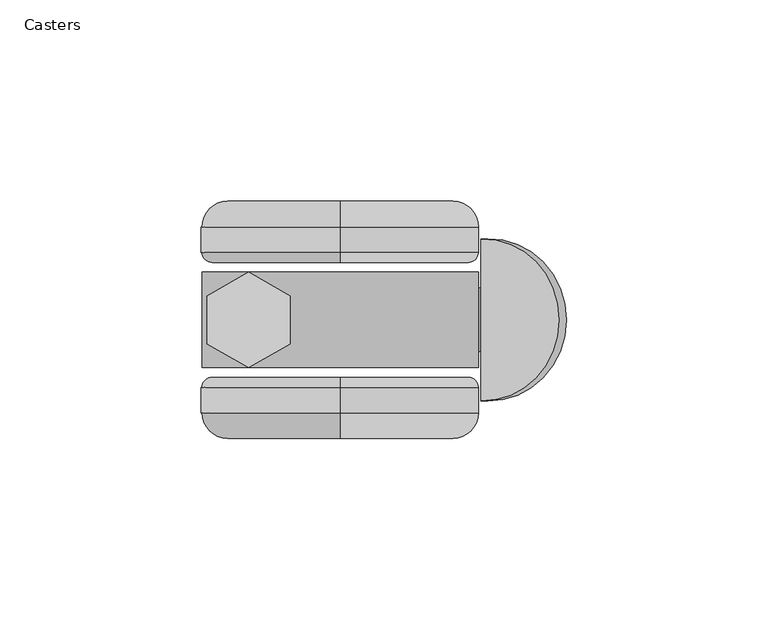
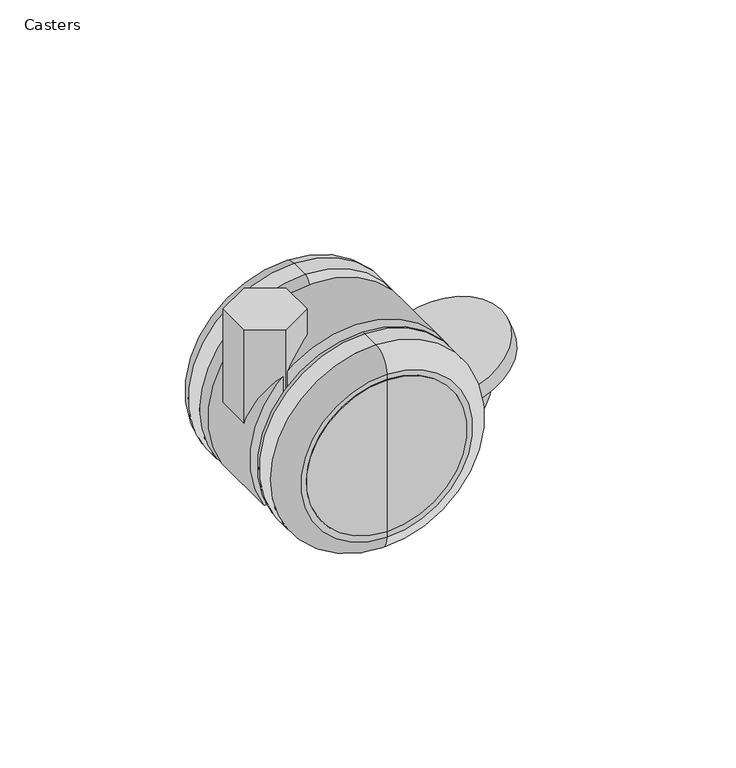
"""IFC4 building model written with IfcOpenShell, lengths in millimetres: furniture geometry, SmithSystem_AM_Table_Education_Elemental_Activity_Caster : Casters."""

from ifc_helpers import new_model, si_unit, point, frame, frame_2d, origin, place, context, project, spatial, polyline, circle_curve, ellipse_curve, trimmed, segment, composite_curve, outline, extrude, source, transform, mapped, element, save
from ifc_brep_helpers import plane_surface, cylinder_surface, revolved_surface, advanced_brep


def casters_b884fe79(model_context):
    return source(origin(), model_context, "Body", "SolidModel", [
        advanced_brep(
        [(22.7469158, 29.4512671, 60.6180432), (22.7469158, 29.4512671, 34.4942858), (22.7469158, 29.4512671, 8.3705283), (22.7469158, 14.2762892, 34.4942858), (22.7469158, 14.2762892, 60.6180432), (22.7469158, 14.2762892, 8.3705283)],
        [
            (0, 1),
            (1, 2),
            (2, 0, circle_curve(frame((22.7469158, 29.4512671, 34.4942858), z_axis=(0.0, 1.0, 0.0), x_axis=(0.0, 0.0, -1.0)), 26.1237575)),
            (0, 2, circle_curve(frame((22.7469158, 29.4512671, 34.4942858), z_axis=(0.0, 1.0, 0.0), x_axis=(0.0, 0.0, -1.0)), 26.1237575)),
            (3, 4),
            (4, 5, circle_curve(frame((22.7469158, 14.2762892, 34.4942858), z_axis=(0.0, -1.0, 0.0), x_axis=(0.0, 0.0, -1.0)), 26.1237575)),
            (5, 3),
            (5, 4, circle_curve(frame((22.7469158, 14.2762892, 34.4942858), z_axis=(0.0, -1.0, 0.0), x_axis=(0.0, 0.0, -1.0)), 26.1237575)),
            (4, 0),
            (2, 5),
        ],
        [
            plane_surface(frame((22.7469158, 29.4512671, 34.4942858), z_axis=(0.0, 1.0, 0.0), x_axis=(0.0, 0.0, -1.0))),
            plane_surface(frame((22.7469158, 14.2762892, 34.4942858), z_axis=(0.0, -1.0, 0.0), x_axis=(0.0, 0.0, -1.0))),
            cylinder_surface(frame((22.7469158, 29.4512671, 34.4942858), z_axis=(0.0, -1.0, 0.0), x_axis=(0.0, 0.0, -1.0)), 26.1237575),
        ],
        [
            (0, [[1, 2, 3]]),
            (0, [[-2, -1, 4]]),
            (1, [[5, 6, 7]]),
            (1, [[-7, 8, -5]]),
            (2, [[9, -3, 10, -6]]),
            (2, [[-10, -4, -9, -8]]),
        ],
    ),
        advanced_brep(
        [(22.7469158, -14.2762892, 60.6180432), (22.7469158, -14.2762892, 34.4942858), (22.7469158, -14.2762892, 8.3705283), (22.7469158, -29.4512671, 34.4942858), (22.7469158, -29.4512671, 60.6180432), (22.7469158, -29.4512671, 8.3705283)],
        [
            (0, 1),
            (1, 2),
            (2, 0, circle_curve(frame((22.7469158, -14.2762892, 34.4942858), z_axis=(0.0, 1.0, 0.0), x_axis=(0.0, 0.0, -1.0)), 26.1237575)),
            (0, 2, circle_curve(frame((22.7469158, -14.2762892, 34.4942858), z_axis=(0.0, 1.0, 0.0), x_axis=(0.0, 0.0, -1.0)), 26.1237575)),
            (3, 4),
            (4, 5, circle_curve(frame((22.7469158, -29.4512671, 34.4942858), z_axis=(0.0, -1.0, 0.0), x_axis=(0.0, 0.0, -1.0)), 26.1237575)),
            (5, 3),
            (5, 4, circle_curve(frame((22.7469158, -29.4512671, 34.4942858), z_axis=(0.0, -1.0, 0.0), x_axis=(0.0, 0.0, -1.0)), 26.1237575)),
            (4, 0),
            (2, 5),
        ],
        [
            plane_surface(frame((22.7469158, -14.2762892, 34.4942858), z_axis=(0.0, 1.0, 0.0), x_axis=(0.0, 0.0, -1.0))),
            plane_surface(frame((22.7469158, -29.4512671, 34.4942858), z_axis=(0.0, -1.0, 0.0), x_axis=(0.0, 0.0, -1.0))),
            cylinder_surface(frame((22.7469158, 29.4512671, 34.4942858), z_axis=(0.0, -1.0, 0.0), x_axis=(0.0, 0.0, -1.0)), 26.1237575),
        ],
        [
            (0, [[1, 2, 3]]),
            (0, [[-2, -1, 4]]),
            (1, [[5, 6, 7]]),
            (1, [[-7, 8, -5]]),
            (2, [[9, -3, 10, -6]]),
            (2, [[-10, -4, -9, -8]]),
        ],
    ),
        extrude(outline(polyline([(10.2716684, -5.9301869), (6.74e-05, -11.8599472), (-10.2711108, -5.9293064), (-10.27056, 5.9310233), (0.0009736, 11.8608108), (10.2721586, 5.9301869), (10.2716684, -5.9301869)])), frame((0.0, 0.0, 34.5154144), z_axis=(0.0, 0.0, 1.0), x_axis=(1.0, 0.0, 0.0)), (0.0, 0.0, 1.0), 40.7243426),
        extrude(outline(composite_curve([segment(trimmed(circle_curve(frame_2d((34.5024615, 22.7479107)), 34.5095906), [point((17.258349, 52.6402581))], [point((17.258349, -7.1444366))], False, "CARTESIAN"), True, "CONTINUOUS"), segment(polyline([(17.258349, -7.1444366), (17.258349, 52.6402581)]), True, "CONTINUOUS")], self_intersect=False)), frame((0.0, -11.8599472, 0.0), z_axis=(0.0, 1.0, 0.0), x_axis=(0.0, 0.0, 1.0)), (0.0, 0.0, 1.0), 23.7207579),
        extrude(outline(composite_curve([segment(trimmed(circle_curve(frame_2d((0.0, 20.1000196)), 20.1000196), [point((20.0903763, 20.7225689))], [point((-20.0903762, 20.7225689))], False, "CARTESIAN"), True, "CONTINUOUS"), segment(polyline([(-20.0903762, 20.7225689), (20.0903763, 20.7225689)]), True, "CONTINUOUS")], self_intersect=False)), frame((78.8659414, -7.36e-05, 43.1304578), z_axis=(-0.3416096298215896, 0.0, 0.9398419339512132), x_axis=(0.0, 1.0, 0.0)), (0.0, 0.0, 1.0), 5.1309173),
        extrude(outline(composite_curve([segment(polyline([(25.5698623, 43.1421933), (25.5698623, 30.4421933)]), True, "CONTINUOUS"), segment(trimmed(circle_curve(frame_2d((33.2726957, 49.5086334)), 20.5636275), [point((25.5698623, 30.4421933))], [point((34.5482376, 70.0326624))], False, "CARTESIAN"), True, "CONTINUOUS"), segment(trimmed(circle_curve(frame_2d((34.7161098, 72.7337994)), 2.7063485), [point((34.5482376, 70.0326624))], [point((37.3518014, 72.1194283))], True, "CARTESIAN"), True, "CONTINUOUS"), segment(trimmed(circle_curve(frame_2d((42.0756307, 71.018319)), 4.8504644), [point((37.3518014, 72.1194283))], [point((42.0445064, 75.8686836))], False, "CARTESIAN"), True, "CONTINUOUS"), segment(polyline([(42.0445064, 75.8686836), (36.0718444, 59.4589294)]), True, "CONTINUOUS"), segment(trimmed(circle_curve(frame_2d((33.1410013, 49.8072387)), 10.0868714), [point((36.0718444, 59.4589294))], [point((25.5698623, 43.1421933))], True, "CARTESIAN"), True, "CONTINUOUS")], self_intersect=False)), frame((0.0, -7.8962269, 0.0), z_axis=(0.0, 1.0, 0.0), x_axis=(0.0, 0.0, 1.0)), (0.0, 0.0, 1.0), 15.7887393),
        advanced_brep(
        [(22.7469158, 29.4512671, 62.6385715), (22.7469158, 29.4512671, 60.6180432), (22.7469158, 29.4512671, 8.3705283), (22.7469158, 29.4512671, 6.35), (22.7469158, 23.1012671, 68.9885715), (22.7469158, 23.1012671, 0.0), (22.7469158, 16.7875927, 68.9885715), (22.7469158, 16.7875927, 0.0), (22.7469158, 14.2762892, 66.4772681), (22.7469158, 14.2762892, 2.5113035), (22.7469158, 14.2762892, 60.6180432), (22.7469158, 14.2762892, 8.3705283)],
        [
            (0, 1),
            (1, 2, circle_curve(frame((22.7469158, 29.4512671, 34.4942858), z_axis=(0.0, -1.0, 0.0), x_axis=(0.0, 0.0, -1.0)), 26.1237575)),
            (2, 3),
            (3, 0, circle_curve(frame((22.7469158, 29.4512671, 34.4942858), z_axis=(0.0, 1.0, 0.0), x_axis=(0.0, 0.0, -1.0)), 28.1442858)),
            (2, 1, circle_curve(frame((22.7469158, 29.4512671, 34.4942858), z_axis=(0.0, -1.0, 0.0), x_axis=(0.0, 0.0, -1.0)), 26.1237575)),
            (0, 3, circle_curve(frame((22.7469158, 29.4512671, 34.4942858), z_axis=(0.0, 1.0, 0.0), x_axis=(0.0, 0.0, -1.0)), 28.1442858)),
            (4, 0, circle_curve(frame((22.7469158, 23.1012671, 62.6385715), z_axis=(-1.0, 0.0, 0.0), x_axis=(0.0, -1.0, 0.0)), 6.35)),
            (3, 5, circle_curve(frame((22.7469158, 23.1012671, 6.35), z_axis=(-1.0, 0.0, 0.0), x_axis=(0.0, -1.0, 0.0)), 6.35)),
            (5, 4, circle_curve(frame((22.7469158, 23.1012671, 34.4942858), z_axis=(0.0, 1.0, 0.0), x_axis=(0.0, 0.0, -1.0)), 34.4942858)),
            (4, 5, circle_curve(frame((22.7469158, 23.1012671, 34.4942858), z_axis=(0.0, 1.0, 0.0), x_axis=(0.0, 0.0, -1.0)), 34.4942858)),
            (6, 4),
            (5, 7),
            (7, 6, circle_curve(frame((22.7469158, 16.7875927, 34.4942858), z_axis=(0.0, 1.0, 0.0), x_axis=(0.0, 0.0, -1.0)), 34.4942858)),
            (6, 7, circle_curve(frame((22.7469158, 16.7875927, 34.4942858), z_axis=(0.0, 1.0, 0.0), x_axis=(0.0, 0.0, -1.0)), 34.4942858)),
            (8, 6, circle_curve(frame((22.7469158, 16.7875927, 66.4772681), z_axis=(-1.0, 0.0, 0.0), x_axis=(0.0, -1.0, 0.0)), 2.5113035)),
            (7, 9, circle_curve(frame((22.7469158, 16.7875927, 2.5113035), z_axis=(-1.0, 0.0, 0.0), x_axis=(0.0, -1.0, 0.0)), 2.5113035)),
            (9, 8, circle_curve(frame((22.7469158, 14.2762892, 34.4942858), z_axis=(0.0, 1.0, 0.0), x_axis=(0.0, 0.0, -1.0)), 31.9829823)),
            (8, 9, circle_curve(frame((22.7469158, 14.2762892, 34.4942858), z_axis=(0.0, 1.0, 0.0), x_axis=(0.0, 0.0, -1.0)), 31.9829823)),
            (10, 8),
            (9, 11),
            (11, 10, circle_curve(frame((22.7469158, 14.2762892, 34.4942858), z_axis=(0.0, 1.0, 0.0), x_axis=(0.0, 0.0, -1.0)), 26.1237575)),
            (10, 11, circle_curve(frame((22.7469158, 14.2762892, 34.4942858), z_axis=(0.0, 1.0, 0.0), x_axis=(0.0, 0.0, -1.0)), 26.1237575)),
            (1, 10),
            (11, 2),
        ],
        [
            plane_surface(frame((22.7469158, 29.4512671, 34.4942858), z_axis=(0.0, 1.0, 0.0), x_axis=(0.0, 0.0, -1.0))),
            revolved_surface(trimmed(ellipse_curve(frame((22.7469158, 23.1012671, 6.35), z_axis=(-1.0, 0.0, 0.0), x_axis=(0.0, -1.0, 0.0)), 6.35, 6.35), [point((22.7469158, 29.4512671, 6.35))], [point((22.7469158, 23.1012671, 0.0))], True, "CARTESIAN"), (22.7469158, 29.4512671, 34.4942858), (0.0, -1.0, 0.0)),
            cylinder_surface(frame((22.7469158, 29.4512671, 34.4942858), z_axis=(0.0, -1.0, 0.0), x_axis=(0.0, 0.0, -1.0)), 34.4942858),
            revolved_surface(trimmed(ellipse_curve(frame((22.7469158, 16.7875927, 2.5113035), z_axis=(-1.0, 0.0, 0.0), x_axis=(0.0, -1.0, 0.0)), 2.5113035, 2.5113035), [point((22.7469158, 16.7875927, 0.0))], [point((22.7469158, 14.2762892, 2.5113035))], True, "CARTESIAN"), (22.7469158, 29.4512671, 34.4942858), (0.0, -1.0, 0.0)),
            plane_surface(frame((22.7469158, 14.2762892, 34.4942858), z_axis=(0.0, -1.0, 0.0), x_axis=(0.0, 0.0, -1.0))),
            revolved_surface(polyline([(22.7469158, 14.2762892, 8.3705283), (22.7469158, 29.4512671, 8.3705283)]), (22.7469158, 29.4512671, 34.4942858), (0.0, -1.0, 0.0)),
        ],
        [
            (0, [[1, 2, 3, 4]]),
            (0, [[-3, 5, -1, 6]]),
            (1, [[7, -4, 8, 9]]),
            (1, [[-8, -6, -7, 10]]),
            (2, [[11, -9, 12, 13]]),
            (2, [[-12, -10, -11, 14]]),
            (3, [[15, -13, 16, 17]]),
            (3, [[-16, -14, -15, 18]]),
            (4, [[19, -17, 20, 21]]),
            (4, [[-20, -18, -19, 22]]),
            (5, [[23, -21, 24, -2]]),
            (5, [[-24, -22, -23, -5]]),
        ],
    ),
        advanced_brep(
        [(22.7469158, -14.2762892, 66.4772681), (22.7469158, -14.2762892, 60.6180432), (22.7469158, -14.2762892, 8.3705283), (22.7469158, -14.2762892, 2.5113035), (22.7469158, -16.7875927, 68.9885715), (22.7469158, -16.7875927, 0.0), (22.7469158, -23.1012671, 68.9885715), (22.7469158, -23.1012671, 0.0), (22.7469158, -29.4512671, 62.6385715), (22.7469158, -29.4512671, 6.35), (22.7469158, -29.4512671, 60.6180432), (22.7469158, -29.4512671, 8.3705283)],
        [
            (0, 1),
            (1, 2, circle_curve(frame((22.7469158, -14.2762892, 34.4942858), z_axis=(0.0, -1.0, 0.0), x_axis=(0.0, 0.0, -1.0)), 26.1237575)),
            (2, 3),
            (3, 0, circle_curve(frame((22.7469158, -14.2762892, 34.4942858), z_axis=(0.0, 1.0, 0.0), x_axis=(0.0, 0.0, -1.0)), 31.9829823)),
            (2, 1, circle_curve(frame((22.7469158, -14.2762892, 34.4942858), z_axis=(0.0, -1.0, 0.0), x_axis=(0.0, 0.0, -1.0)), 26.1237575)),
            (0, 3, circle_curve(frame((22.7469158, -14.2762892, 34.4942858), z_axis=(0.0, 1.0, 0.0), x_axis=(0.0, 0.0, -1.0)), 31.9829823)),
            (4, 0, circle_curve(frame((22.7469158, -16.7875927, 66.4772681), z_axis=(-1.0, 0.0, 0.0), x_axis=(0.0, -1.0, 0.0)), 2.5113035)),
            (3, 5, circle_curve(frame((22.7469158, -16.7875927, 2.5113035), z_axis=(-1.0, 0.0, 0.0), x_axis=(0.0, -1.0, 0.0)), 2.5113035)),
            (5, 4, circle_curve(frame((22.7469158, -16.7875927, 34.4942858), z_axis=(0.0, 1.0, 0.0), x_axis=(0.0, 0.0, -1.0)), 34.4942858)),
            (4, 5, circle_curve(frame((22.7469158, -16.7875927, 34.4942858), z_axis=(0.0, 1.0, 0.0), x_axis=(0.0, 0.0, -1.0)), 34.4942858)),
            (6, 4),
            (5, 7),
            (7, 6, circle_curve(frame((22.7469158, -23.1012671, 34.4942858), z_axis=(0.0, 1.0, 0.0), x_axis=(0.0, 0.0, -1.0)), 34.4942858)),
            (6, 7, circle_curve(frame((22.7469158, -23.1012671, 34.4942858), z_axis=(0.0, 1.0, 0.0), x_axis=(0.0, 0.0, -1.0)), 34.4942858)),
            (8, 6, circle_curve(frame((22.7469158, -23.1012671, 62.6385715), z_axis=(-1.0, 0.0, 0.0), x_axis=(0.0, -1.0, 0.0)), 6.35)),
            (7, 9, circle_curve(frame((22.7469158, -23.1012671, 6.35), z_axis=(-1.0, 0.0, 0.0), x_axis=(0.0, -1.0, 0.0)), 6.35)),
            (9, 8, circle_curve(frame((22.7469158, -29.4512671, 34.4942858), z_axis=(0.0, 1.0, 0.0), x_axis=(0.0, 0.0, -1.0)), 28.1442858)),
            (8, 9, circle_curve(frame((22.7469158, -29.4512671, 34.4942858), z_axis=(0.0, 1.0, 0.0), x_axis=(0.0, 0.0, -1.0)), 28.1442858)),
            (10, 8),
            (9, 11),
            (11, 10, circle_curve(frame((22.7469158, -29.4512671, 34.4942858), z_axis=(0.0, 1.0, 0.0), x_axis=(0.0, 0.0, -1.0)), 26.1237575)),
            (10, 11, circle_curve(frame((22.7469158, -29.4512671, 34.4942858), z_axis=(0.0, 1.0, 0.0), x_axis=(0.0, 0.0, -1.0)), 26.1237575)),
            (1, 10),
            (11, 2),
        ],
        [
            plane_surface(frame((22.7469158, -14.2762892, 34.4942858), z_axis=(0.0, 1.0, 0.0), x_axis=(0.0, 0.0, -1.0))),
            revolved_surface(trimmed(ellipse_curve(frame((22.7469158, -16.7875927, 2.5113035), z_axis=(-1.0, 0.0, 0.0), x_axis=(0.0, -1.0, 0.0)), 2.5113035, 2.5113035), [point((22.7469158, -14.2762892, 2.5113035))], [point((22.7469158, -16.7875927, 0.0))], True, "CARTESIAN"), (22.7469158, 29.4512671, 34.4942858), (0.0, -1.0, 0.0)),
            cylinder_surface(frame((22.7469158, 29.4512671, 34.4942858), z_axis=(0.0, -1.0, 0.0), x_axis=(0.0, 0.0, -1.0)), 34.4942858),
            revolved_surface(trimmed(ellipse_curve(frame((22.7469158, -23.1012671, 6.35), z_axis=(-1.0, 0.0, 0.0), x_axis=(0.0, -1.0, 0.0)), 6.35, 6.35), [point((22.7469158, -23.1012671, 0.0))], [point((22.7469158, -29.4512671, 6.35))], True, "CARTESIAN"), (22.7469158, 29.4512671, 34.4942858), (0.0, -1.0, 0.0)),
            plane_surface(frame((22.7469158, -29.4512671, 34.4942858), z_axis=(0.0, -1.0, 0.0), x_axis=(0.0, 0.0, -1.0))),
            revolved_surface(polyline([(22.7469158, -29.4512671, 8.3705283), (22.7469158, -14.276289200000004, 8.3705283)]), (22.7469158, 29.4512671, 34.4942858), (0.0, -1.0, 0.0)),
        ],
        [
            (0, [[1, 2, 3, 4]]),
            (0, [[-3, 5, -1, 6]]),
            (1, [[7, -4, 8, 9]]),
            (1, [[-8, -6, -7, 10]]),
            (2, [[11, -9, 12, 13]]),
            (2, [[-12, -10, -11, 14]]),
            (3, [[15, -13, 16, 17]]),
            (3, [[-16, -14, -15, 18]]),
            (4, [[19, -17, 20, 21]]),
            (4, [[-20, -18, -19, 22]]),
            (5, [[23, -21, 24, -2]]),
            (5, [[-24, -22, -23, -5]]),
        ],
    ),
    ])


if __name__ == "__main__":
    model = new_model("IFC4")
    model_context = context("Model", 3, world=origin())
    ifc_project = project(units=[si_unit("LENGTHUNIT", "METRE", prefix="MILLI")], contexts=[model_context])
    site = spatial("IfcSite", under=ifc_project)
    building = spatial("IfcBuilding", under=site)
    placement = place(None, origin())
    casters_shape = casters_b884fe79(model_context)
    element("IfcFurniture", 1, ObjectType="SmithSystem_AM_Table_Education_Elemental_Activity_Caster : Casters", at=placement, inside=building, context=model_context, shape_type="MappedRepresentation", body=[
        mapped(casters_shape, transform((0.0, 0.0, 0.0), x_axis=(1.0, 0.0, 0.0), y_axis=(0.0, 1.0, 0.0), z_axis=(0.0, 0.0, 1.0))),
    ])
    save(model, "model.ifc")
